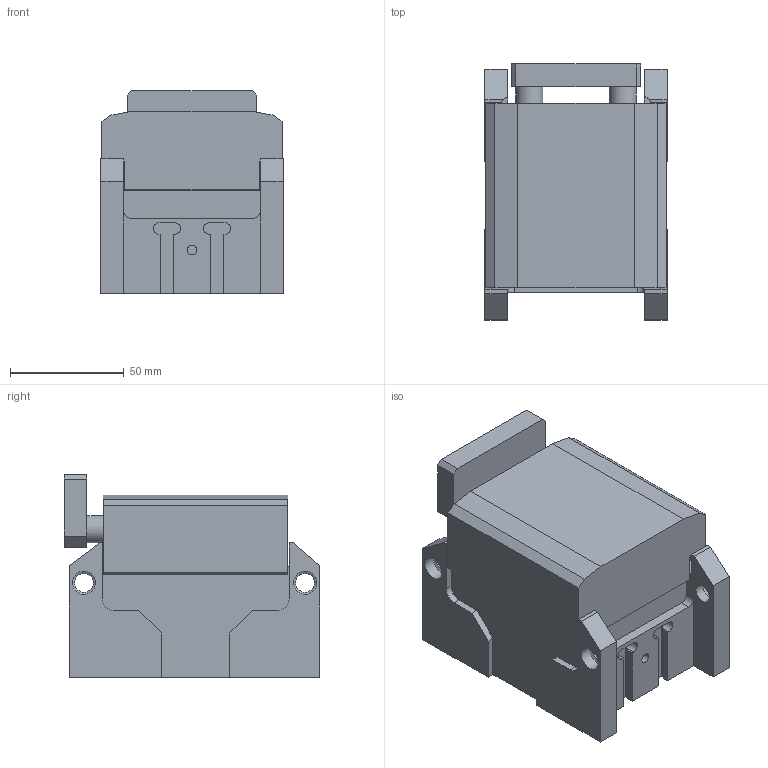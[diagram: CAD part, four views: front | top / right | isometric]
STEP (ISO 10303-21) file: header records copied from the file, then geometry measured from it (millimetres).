
FILE_DESCRIPTION(/* description */ ('Stopper SD-160-EW-09-E'),/* implementation_level */ '2;1');
FILE_NAME(/* name */ 'C:\Marketing\01_Versamove-SPU_STEP-Dateien-Homepage\Versamove plus\Stopper\K503022161_Stopper_SD-160-DW-09.stp',/* time_stamp */ '2017-02-01T13:31:43+01:00',/* author */ ('herbert.engels'),/* organization */ (''),/* preprocessor_version */ 'ST-DEVELOPER v15.6',/* originating_system */ 'Autodesk Inventor 2015',/* authorisation */ '');
FILE_SCHEMA (('CONFIG_CONTROL_DESIGN'));
Length unit declared in the file: millimetre
Products named in the file (1): T-ENG556638
Bounding box: 80 x 112.2 x 89 mm (x, y, z)
Volume: 480100 mm3; surface area: 80240.8 mm2
Topology: 2 solids, 4 shells, 153 faces, 413 edges, 274 vertices
Faces by surface type: plane 111, cylinder 34, cone 8
Full cylindrical faces by diameter (mm): 4.2 x2, 6.8 x4, 8.2 x4, 10.2 x4, 12 x4, 15 x1, 15.08 x1
Entity records: 4725 total; most frequent: CARTESIAN_POINT 789, DIRECTION 753, ORIENTED_EDGE 746, EDGE_CURVE 373, LINE 301, VECTOR 301, VERTEX_POINT 262, AXIS2_PLACEMENT_3D 226
